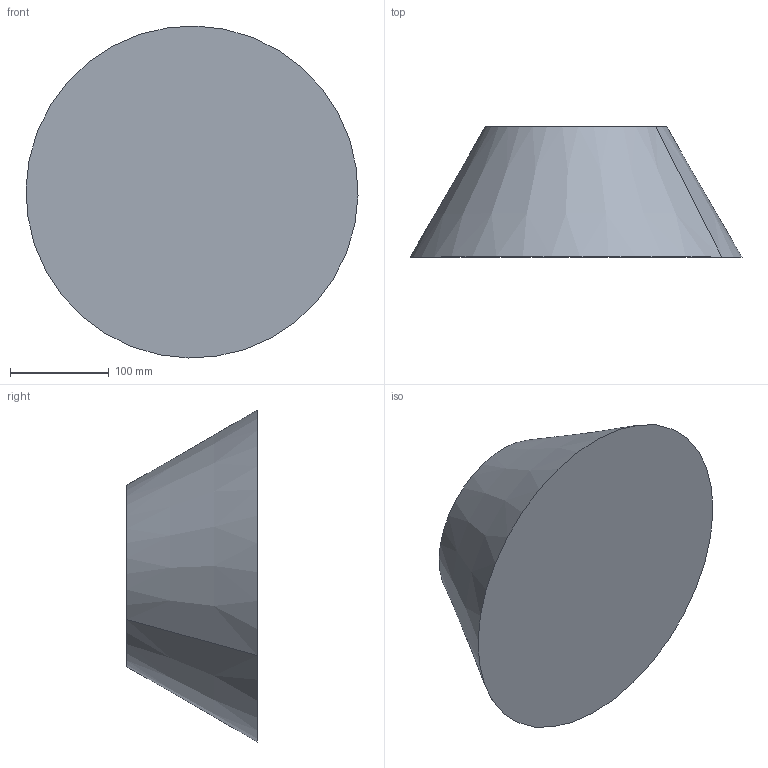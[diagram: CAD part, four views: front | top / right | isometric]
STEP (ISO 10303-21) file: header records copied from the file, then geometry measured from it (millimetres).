
FILE_DESCRIPTION(('CATIA V5 STEP Exchange'),'2;1');
FILE_NAME('C:\_Andres\UNIVERSIDAD\IQS\ASIGNATURAS\DAO\EXF\EXF-16172c\2inicio\Sarasa_Prat_Ej09_v32.stp','2017-03-05T22:13:15+00:00',('none'),('none'),'CATIA Version 5-6 Release 2014 SP1 HF18','CATIA V5 STEP AP203','none');
FILE_SCHEMA(('CONFIG_CONTROL_DESIGN'));
Length unit declared in the file: millimetre
Products named in the file (1): Sarasa_Prat_Ej09_v32
Bounding box: 335.91 x 132 x 335.91 mm (x, y, z)
Volume: 7189791.8 mm3; surface area: 241735 mm2
Topology: 1 solids, 2 shells, 8 faces, 12 edges, 8 vertices
Faces by surface type: plane 4, cone 2, cylinder 2
Entity records: 205 total; most frequent: CARTESIAN_POINT 27, DIRECTION 24, ORIENTED_EDGE 24, AXIS2_PLACEMENT_3D 15, EDGE_CURVE 12, ADVANCED_FACE 8, CIRCLE 8, EDGE_LOOP 8
